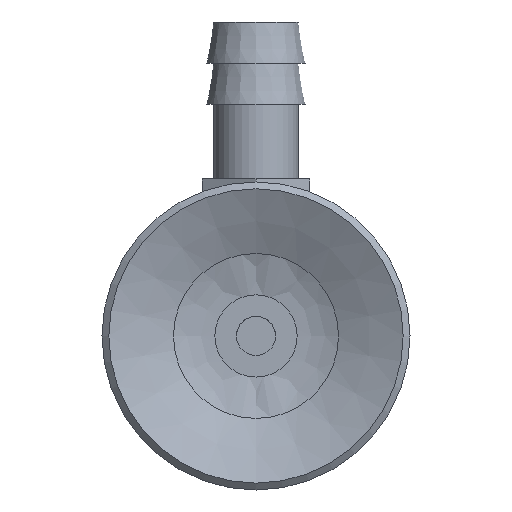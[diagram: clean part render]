
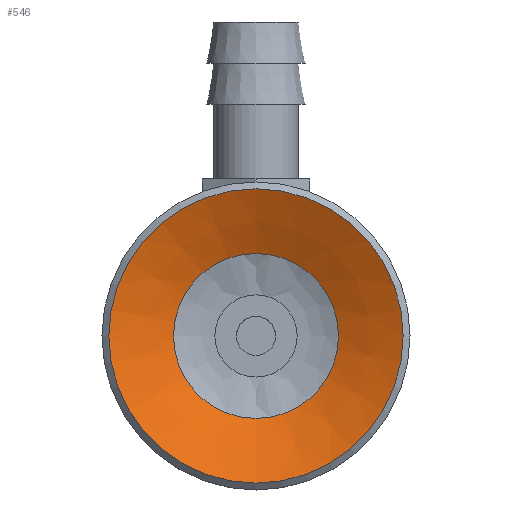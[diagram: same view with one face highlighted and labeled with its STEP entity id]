
A CAD part, front view. The second image highlights one B-rep face of the part: STEP entity #546.
In plain terms, the highlighted conical face has half-angle 65.056 degrees and reference radius 3.2 mm.
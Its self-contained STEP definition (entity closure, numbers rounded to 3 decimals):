
#546=ADVANCED_FACE('',(#804,#805),#806,.F.);
#804=FACE_BOUND('',#1121,.T.);
#805=FACE_OUTER_BOUND('',#1122,.T.);
#806=CONICAL_SURFACE('',#1123,3.2,1.135);
#1121=EDGE_LOOP('',(#1845));
#1122=EDGE_LOOP('',(#1846));
#1123=AXIS2_PLACEMENT_3D('',#1847,#1848,#1849);
#1845=ORIENTED_EDGE('',*,*,#2194,.T.);
#1846=ORIENTED_EDGE('',*,*,#2195,.T.);
#1847=CARTESIAN_POINT('',(0.0,7.896,0.0));
#1848=DIRECTION('',(-0.0,-1.0,0.));
#1849=DIRECTION('',(0.0,0.,-1.0));
#2194=EDGE_CURVE('',#2515,#2515,#2516,.T.);
#2195=EDGE_CURVE('',#2517,#2517,#2518,.T.);
#2515=VERTEX_POINT('',#3259);
#2516=CIRCLE('',#3260,4.203);
#2517=VERTEX_POINT('',#3261);
#2518=CIRCLE('',#3262,7.5);
#3259=CARTESIAN_POINT('',(0.0,7.43,-4.203));
#3260=AXIS2_PLACEMENT_3D('',#3606,#3607,#3608);
#3261=CARTESIAN_POINT('',(0.0,5.896,-7.5));
#3262=AXIS2_PLACEMENT_3D('',#3609,#3610,#3611);
#3606=CARTESIAN_POINT('',(0.0,7.43,0.0));
#3607=DIRECTION('',(0.0,1.0,0.));
#3608=DIRECTION('',(0.0,0.,-1.0));
#3609=CARTESIAN_POINT('',(0.0,5.896,0.0));
#3610=DIRECTION('',(0.0,-1.0,0.));
#3611=DIRECTION('',(0.0,0.,-1.0));
